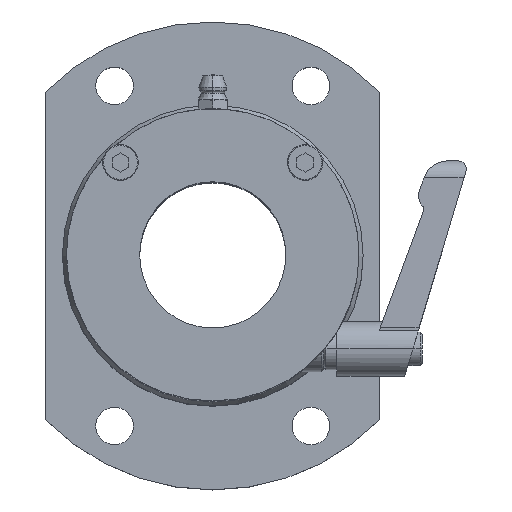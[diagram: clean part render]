
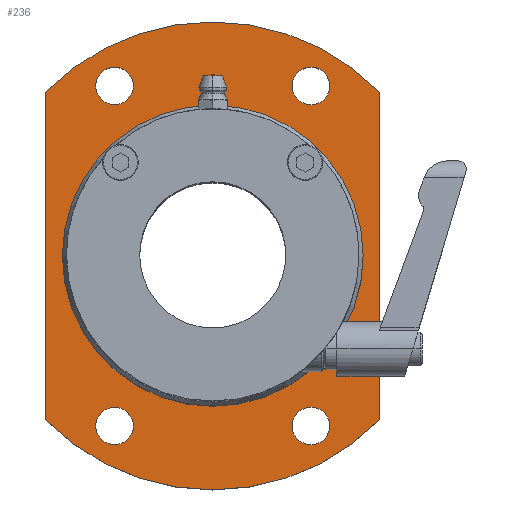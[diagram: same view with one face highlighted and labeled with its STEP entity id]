
A CAD part, top view. The second image highlights one B-rep face of the part: STEP entity #236.
In plain terms, the highlighted planar face has unit normal (0, 0, 1).
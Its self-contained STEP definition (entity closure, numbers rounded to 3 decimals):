
#128 = CIRCLE ( 'NONE', #6515, 36. ) ;
#143 = AXIS2_PLACEMENT_3D ( 'NONE', #1651, #5135, #6985 ) ;
#162 = CIRCLE ( 'NONE', #9280, 36. ) ;
#236 = ADVANCED_FACE ( 'NONE', ( #6054, #10322, #1699, #5182, #7822, #4402 ), #5995, .T. ) ;
#582 = EDGE_CURVE ( 'NONE', #2328, #6656, #2224, .T. ) ;
#720 = DIRECTION ( 'NONE',  ( 1., 0., 0. ) ) ;
#867 = VERTEX_POINT ( 'NONE', #8110 ) ;
#910 = CARTESIAN_POINT ( 'NONE',  ( -20.322, 41.612, 105. ) ) ;
#936 = AXIS2_PLACEMENT_3D ( 'NONE', #7932, #7201, #2036 ) ;
#1043 = EDGE_CURVE ( 'NONE', #10331, #10785, #1803, .T. ) ;
#1080 = AXIS2_PLACEMENT_3D ( 'NONE', #1954, #6965, #6209 ) ;
#1208 = EDGE_LOOP ( 'NONE', ( #10757, #5107 ) ) ;
#1293 = VERTEX_POINT ( 'NONE', #5805 ) ;
#1346 = ORIENTED_EDGE ( 'NONE', *, *, #7042, .T. ) ;
#1454 = CARTESIAN_POINT ( 'NONE',  ( 17.678, -39.795, 105. ) ) ;
#1547 = CARTESIAN_POINT ( 'NONE',  ( 38.678, -38.283, 105. ) ) ;
#1589 = VERTEX_POINT ( 'NONE', #9066 ) ;
#1608 = CIRCLE ( 'NONE', #9271, 4.5 ) ;
#1651 = CARTESIAN_POINT ( 'NONE',  ( -1.322, 46.909, 105. ) ) ;
#1699 = FACE_BOUND ( 'NONE', #1208, .T. ) ;
#1708 = CARTESIAN_POINT ( 'NONE',  ( -41.322, -38.283, 105. ) ) ;
#1738 = EDGE_CURVE ( 'NONE', #1293, #6309, #7874, .T. ) ;
#1745 = ORIENTED_EDGE ( 'NONE', *, *, #10320, .T. ) ;
#1803 = CIRCLE ( 'NONE', #6010, 4.5 ) ;
#1810 = ORIENTED_EDGE ( 'NONE', *, *, #2573, .T. ) ;
#1935 = CARTESIAN_POINT ( 'NONE',  ( 17.678, 41.612, 105. ) ) ;
#1954 = CARTESIAN_POINT ( 'NONE',  ( -1.322, 0.909, 105. ) ) ;
#2020 = CARTESIAN_POINT ( 'NONE',  ( 22.178, 41.612, 105. ) ) ;
#2036 = DIRECTION ( 'NONE',  ( 0., 1., 0. ) ) ;
#2207 = EDGE_CURVE ( 'NONE', #10053, #867, #10784, .T. ) ;
#2215 = ORIENTED_EDGE ( 'NONE', *, *, #7536, .T. ) ;
#2224 = LINE ( 'NONE', #3935, #3970 ) ;
#2328 = VERTEX_POINT ( 'NONE', #8440 ) ;
#2391 = CARTESIAN_POINT ( 'NONE',  ( -24.822, 41.612, 105. ) ) ;
#2413 = EDGE_LOOP ( 'NONE', ( #8054, #3793, #9017, #8232, #4983 ) ) ;
#2573 = EDGE_CURVE ( 'NONE', #6309, #1293, #10410, .T. ) ;
#2642 = DIRECTION ( 'NONE',  ( 0., 0., -1. ) ) ;
#2688 = CARTESIAN_POINT ( 'NONE',  ( -1.322, -35.091, 105. ) ) ;
#2910 = CARTESIAN_POINT ( 'NONE',  ( -20.322, -39.795, 105. ) ) ;
#2954 = CARTESIAN_POINT ( 'NONE',  ( -29.322, -39.795, 105. ) ) ;
#3206 = DIRECTION ( 'NONE',  ( 0., 0., -1. ) ) ;
#3285 = CARTESIAN_POINT ( 'NONE',  ( -24.822, -39.795, 105. ) ) ;
#3379 = VERTEX_POINT ( 'NONE', #2688 ) ;
#3596 = EDGE_CURVE ( 'NONE', #4464, #6656, #8681, .T. ) ;
#3674 = DIRECTION ( 'NONE',  ( 1., 0., 0. ) ) ;
#3793 = ORIENTED_EDGE ( 'NONE', *, *, #2207, .F. ) ;
#3804 = CIRCLE ( 'NONE', #9115, 4.5 ) ;
#3879 = EDGE_CURVE ( 'NONE', #1589, #10133, #5195, .T. ) ;
#3935 = CARTESIAN_POINT ( 'NONE',  ( -41.322, 40.1, 105. ) ) ;
#3970 = VECTOR ( 'NONE', #7278, 1000. ) ;
#4184 = CIRCLE ( 'NONE', #10564, 4.5 ) ;
#4223 = DIRECTION ( 'NONE',  ( 1., 0., 0. ) ) ;
#4353 = LINE ( 'NONE', #1547, #11253 ) ;
#4402 = FACE_BOUND ( 'NONE', #7793, .T. ) ;
#4464 = VERTEX_POINT ( 'NONE', #4477 ) ;
#4477 = CARTESIAN_POINT ( 'NONE',  ( 38.678, -38.283, 105. ) ) ;
#4660 = EDGE_CURVE ( 'NONE', #4464, #867, #4353, .T. ) ;
#4726 = CIRCLE ( 'NONE', #7132, 4.5 ) ;
#4983 = ORIENTED_EDGE ( 'NONE', *, *, #3596, .F. ) ;
#5054 = EDGE_CURVE ( 'NONE', #8486, #9864, #3804, .T. ) ;
#5107 = ORIENTED_EDGE ( 'NONE', *, *, #10734, .T. ) ;
#5135 = DIRECTION ( 'NONE',  ( 0., 0., 1. ) ) ;
#5182 = FACE_BOUND ( 'NONE', #8534, .T. ) ;
#5195 = CIRCLE ( 'NONE', #9390, 4.5 ) ;
#5805 = CARTESIAN_POINT ( 'NONE',  ( 26.678, -39.795, 105. ) ) ;
#5817 = DIRECTION ( 'NONE',  ( 0., 0., -1. ) ) ;
#5869 = CARTESIAN_POINT ( 'NONE',  ( -1.322, 0.909, 105. ) ) ;
#5922 = DIRECTION ( 'NONE',  ( 0., 1., 0. ) ) ;
#5995 = PLANE ( 'NONE',  #143 ) ;
#6010 = AXIS2_PLACEMENT_3D ( 'NONE', #2391, #5817, #4223 ) ;
#6053 = ORIENTED_EDGE ( 'NONE', *, *, #5054, .T. ) ;
#6054 = FACE_OUTER_BOUND ( 'NONE', #2413, .T. ) ;
#6209 = DIRECTION ( 'NONE',  ( 0., 1., 0. ) ) ;
#6309 = VERTEX_POINT ( 'NONE', #1454 ) ;
#6515 = AXIS2_PLACEMENT_3D ( 'NONE', #5869, #3206, #5922 ) ;
#6599 = DIRECTION ( 'NONE',  ( 0., 0., -1. ) ) ;
#6656 = VERTEX_POINT ( 'NONE', #1708 ) ;
#6843 = CARTESIAN_POINT ( 'NONE',  ( 22.178, -39.795, 105. ) ) ;
#6870 = DIRECTION ( 'NONE',  ( 0., 1., 0. ) ) ;
#6946 = VERTEX_POINT ( 'NONE', #8224 ) ;
#6965 = DIRECTION ( 'NONE',  ( 0., 0., -1. ) ) ;
#6985 = DIRECTION ( 'NONE',  ( 1., 0., 0. ) ) ;
#7042 = EDGE_CURVE ( 'NONE', #9864, #8486, #1608, .T. ) ;
#7127 = CIRCLE ( 'NONE', #1080, 56. ) ;
#7132 = AXIS2_PLACEMENT_3D ( 'NONE', #8535, #6599, #9217 ) ;
#7201 = DIRECTION ( 'NONE',  ( 0., 0., -1. ) ) ;
#7278 = DIRECTION ( 'NONE',  ( 0., -1., 0. ) ) ;
#7388 = DIRECTION ( 'NONE',  ( 1., 0., 0. ) ) ;
#7485 = ORIENTED_EDGE ( 'NONE', *, *, #3879, .T. ) ;
#7536 = EDGE_CURVE ( 'NONE', #10133, #1589, #4184, .T. ) ;
#7579 = DIRECTION ( 'NONE',  ( 1., 0., 0. ) ) ;
#7618 = CARTESIAN_POINT ( 'NONE',  ( -29.322, 41.612, 105. ) ) ;
#7698 = EDGE_LOOP ( 'NONE', ( #1346, #6053 ) ) ;
#7760 = DIRECTION ( 'NONE',  ( 1., 0., 0. ) ) ;
#7793 = EDGE_LOOP ( 'NONE', ( #1745, #8582 ) ) ;
#7822 = FACE_BOUND ( 'NONE', #7698, .T. ) ;
#7866 = AXIS2_PLACEMENT_3D ( 'NONE', #6843, #8494, #7579 ) ;
#7874 = CIRCLE ( 'NONE', #8052, 4.5 ) ;
#7932 = CARTESIAN_POINT ( 'NONE',  ( -1.322, 0.909, 105. ) ) ;
#8052 = AXIS2_PLACEMENT_3D ( 'NONE', #8839, #2642, #3674 ) ;
#8054 = ORIENTED_EDGE ( 'NONE', *, *, #4660, .T. ) ;
#8110 = CARTESIAN_POINT ( 'NONE',  ( 38.678, 40.1, 105. ) ) ;
#8145 = EDGE_CURVE ( 'NONE', #2328, #10053, #7127, .T. ) ;
#8161 = CARTESIAN_POINT ( 'NONE',  ( 22.178, 41.612, 105. ) ) ;
#8224 = CARTESIAN_POINT ( 'NONE',  ( -1.322, 36.909, 105. ) ) ;
#8232 = ORIENTED_EDGE ( 'NONE', *, *, #582, .T. ) ;
#8268 = DIRECTION ( 'NONE',  ( 1., 0., 0. ) ) ;
#8440 = CARTESIAN_POINT ( 'NONE',  ( -41.322, 40.1, 105. ) ) ;
#8464 = DIRECTION ( 'NONE',  ( 0., 0., -1. ) ) ;
#8486 = VERTEX_POINT ( 'NONE', #2954 ) ;
#8494 = DIRECTION ( 'NONE',  ( 0., 0., -1. ) ) ;
#8534 = EDGE_LOOP ( 'NONE', ( #7485, #2215 ) ) ;
#8535 = CARTESIAN_POINT ( 'NONE',  ( -24.822, 41.612, 105. ) ) ;
#8551 = DIRECTION ( 'NONE',  ( 0., 0., -1. ) ) ;
#8582 = ORIENTED_EDGE ( 'NONE', *, *, #9410, .T. ) ;
#8602 = DIRECTION ( 'NONE',  ( 0., 1., 0. ) ) ;
#8681 = CIRCLE ( 'NONE', #10113, 56. ) ;
#8754 = DIRECTION ( 'NONE',  ( 0., 1., 0. ) ) ;
#8820 = ORIENTED_EDGE ( 'NONE', *, *, #1738, .T. ) ;
#8839 = CARTESIAN_POINT ( 'NONE',  ( 22.178, -39.795, 105. ) ) ;
#9006 = DIRECTION ( 'NONE',  ( 0., 0., -1. ) ) ;
#9017 = ORIENTED_EDGE ( 'NONE', *, *, #8145, .F. ) ;
#9066 = CARTESIAN_POINT ( 'NONE',  ( 26.678, 41.612, 105. ) ) ;
#9076 = CARTESIAN_POINT ( 'NONE',  ( -24.822, -39.795, 105. ) ) ;
#9115 = AXIS2_PLACEMENT_3D ( 'NONE', #9076, #8551, #8268 ) ;
#9217 = DIRECTION ( 'NONE',  ( 1., 0., 0. ) ) ;
#9263 = CARTESIAN_POINT ( 'NONE',  ( -1.322, 56.909, 105. ) ) ;
#9271 = AXIS2_PLACEMENT_3D ( 'NONE', #3285, #10260, #7760 ) ;
#9280 = AXIS2_PLACEMENT_3D ( 'NONE', #11123, #10448, #8754 ) ;
#9348 = DIRECTION ( 'NONE',  ( 0., 0., -1. ) ) ;
#9370 = CARTESIAN_POINT ( 'NONE',  ( -1.322, 0.909, 105. ) ) ;
#9390 = AXIS2_PLACEMENT_3D ( 'NONE', #8161, #9348, #720 ) ;
#9410 = EDGE_CURVE ( 'NONE', #3379, #6946, #128, .T. ) ;
#9864 = VERTEX_POINT ( 'NONE', #2910 ) ;
#10053 = VERTEX_POINT ( 'NONE', #9263 ) ;
#10113 = AXIS2_PLACEMENT_3D ( 'NONE', #9370, #8464, #6870 ) ;
#10133 = VERTEX_POINT ( 'NONE', #1935 ) ;
#10260 = DIRECTION ( 'NONE',  ( 0., 0., -1. ) ) ;
#10320 = EDGE_CURVE ( 'NONE', #6946, #3379, #162, .T. ) ;
#10322 = FACE_BOUND ( 'NONE', #11096, .T. ) ;
#10331 = VERTEX_POINT ( 'NONE', #910 ) ;
#10410 = CIRCLE ( 'NONE', #7866, 4.5 ) ;
#10448 = DIRECTION ( 'NONE',  ( 0., 0., -1. ) ) ;
#10564 = AXIS2_PLACEMENT_3D ( 'NONE', #2020, #9006, #7388 ) ;
#10734 = EDGE_CURVE ( 'NONE', #10785, #10331, #4726, .T. ) ;
#10757 = ORIENTED_EDGE ( 'NONE', *, *, #1043, .T. ) ;
#10784 = CIRCLE ( 'NONE', #936, 56. ) ;
#10785 = VERTEX_POINT ( 'NONE', #7618 ) ;
#11096 = EDGE_LOOP ( 'NONE', ( #8820, #1810 ) ) ;
#11123 = CARTESIAN_POINT ( 'NONE',  ( -1.322, 0.909, 105. ) ) ;
#11253 = VECTOR ( 'NONE', #8602, 1000. ) ;
